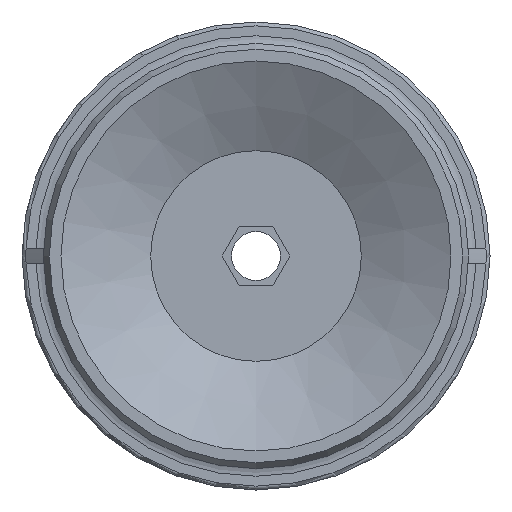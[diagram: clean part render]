
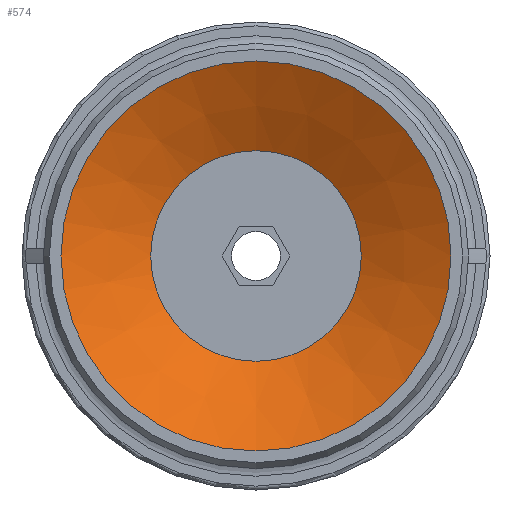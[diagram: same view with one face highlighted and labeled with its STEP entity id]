
A CAD part, front view. The second image highlights one B-rep face of the part: STEP entity #574.
In plain terms, the highlighted conical face has half-angle 61.631 degrees and reference radius 5.4 mm.
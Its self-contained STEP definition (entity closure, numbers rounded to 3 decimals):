
#574=ADVANCED_FACE('',(#865,#866),#867,.F.);
#865=FACE_BOUND('',#1168,.T.);
#866=FACE_OUTER_BOUND('',#1169,.T.);
#867=CONICAL_SURFACE('',#1170,5.4,1.076);
#1168=EDGE_LOOP('',(#2005));
#1169=EDGE_LOOP('',(#2006));
#1170=AXIS2_PLACEMENT_3D('',#2007,#2008,#2009);
#2005=ORIENTED_EDGE('',*,*,#2290,.F.);
#2006=ORIENTED_EDGE('',*,*,#2250,.T.);
#2007=CARTESIAN_POINT('',(0.0,2.484,0.0));
#2008=DIRECTION('',(-0.0,-1.0,0.));
#2009=DIRECTION('',(0.0,0.,-1.0));
#2250=EDGE_CURVE('',#2625,#2625,#2626,.T.);
#2290=EDGE_CURVE('',#2697,#2697,#2698,.T.);
#2625=VERTEX_POINT('',#3461);
#2626=CIRCLE('',#3462,10.0);
#2697=VERTEX_POINT('',#3545);
#2698=CIRCLE('',#3546,5.4);
#3461=CARTESIAN_POINT('',(0.0,0.,-10.0));
#3462=AXIS2_PLACEMENT_3D('',#3823,#3824,#3825);
#3545=CARTESIAN_POINT('',(0.0,2.484,-5.4));
#3546=AXIS2_PLACEMENT_3D('',#3919,#3920,#3921);
#3823=CARTESIAN_POINT('',(0.0,0.0,0.0));
#3824=DIRECTION('',(0.0,-1.0,0.));
#3825=DIRECTION('',(0.0,0.,-1.0));
#3919=CARTESIAN_POINT('',(0.0,2.484,0.0));
#3920=DIRECTION('',(0.0,-1.0,0.));
#3921=DIRECTION('',(0.0,0.,-1.0));
